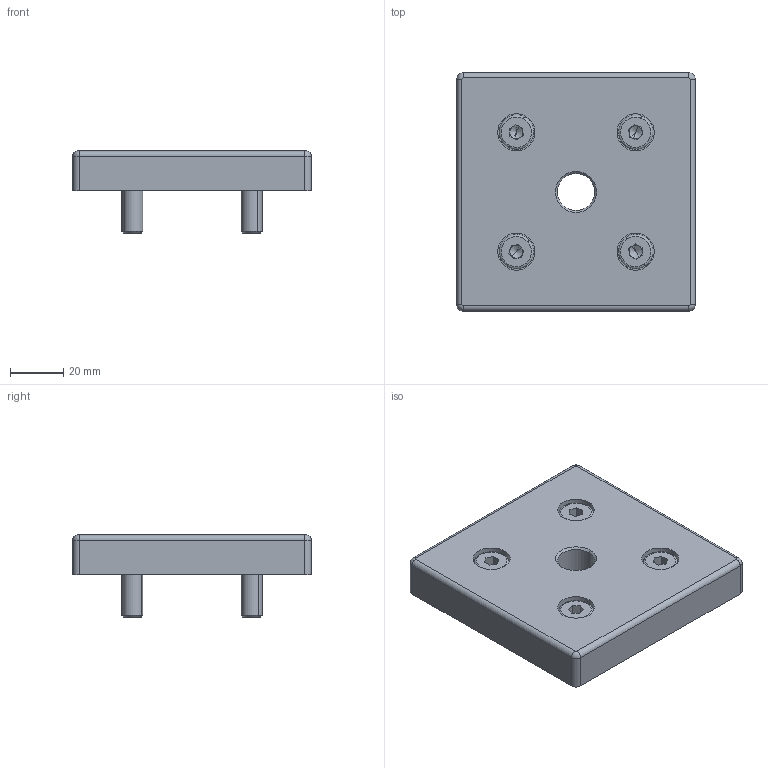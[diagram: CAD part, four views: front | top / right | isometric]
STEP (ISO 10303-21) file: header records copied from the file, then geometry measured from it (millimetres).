
FILE_DESCRIPTION (( 'STEP AP214' ), '1' );
FILE_NAME ('1.5015 Kierrelevy 90x90 M16 C.STEP', '2025-09-16T07:23:01', ( '' ), ( '' ), 'SwSTEP 2.0', 'SolidWorks 2025', '' );
FILE_SCHEMA (( 'AUTOMOTIVE_DESIGN' ));
Length unit declared in the file: millimetre
Products named in the file (1): 1.5015 Kierrelevy 90x90 M16 C
Bounding box: 90 x 90 x 31 mm (x, y, z)
Volume: 76298.2 mm3; surface area: 39669.5 mm2
Topology: 5 solids, 5 shells, 266 faces, 630 edges, 394 vertices
Faces by surface type: plane 150, cylinder 78, torus 20, cone 18
Entity records: 10581 total; most frequent: DIRECTION 1382, CARTESIAN_POINT 1283, ORIENTED_EDGE 1244, EDGE_CURVE 622, AXIS2_PLACEMENT_3D 493, LINE 396, VECTOR 396, VERTEX_POINT 394
